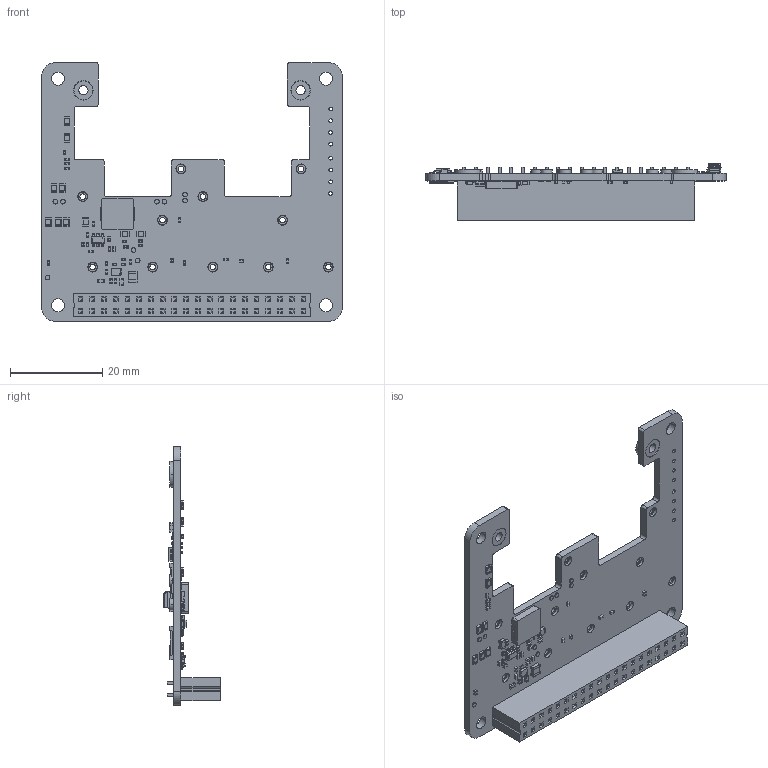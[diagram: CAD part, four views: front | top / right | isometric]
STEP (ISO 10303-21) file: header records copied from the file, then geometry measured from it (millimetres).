
FILE_DESCRIPTION((''),'2;1');
FILE_NAME('PWB-RAK6421_ASM','2026-07-09T09:43:34',('Zachary'),(''),'CREO PARAMETRIC BY PTC INC, 2021063','CREO PARAMETRIC BY PTC INC, 2021063','');
FILE_SCHEMA(('CONFIG_CONTROL_DESIGN','SHAPE_APPEARANCE_LAYERS_GROUPS'));
Products named in the file (94): PWB-RAK6421; ST-0485; SMTSO-M1_2-0_8-ET; AXE524127; AXE540127; SMTSO-M2_5-0_8-ET; SOT-23-6; U1_ASM; SC0603; C27_ASM; SC0402; C11_ASM; C28_ASM; SR0402; R22_ASM; R20_ASM; R18_ASM; R16_ASM; R14_ASM; R23_ASM; R17_ASM; R21_ASM; R47_ASM; R49_ASM; R48_ASM; C6_ASM; C5_ASM; C1_ASM; C3_ASM; C9_ASM; C25_ASM; C2_ASM; C19_ASM; C10_ASM; C23_ASM; C20_ASM; C17_ASM; C24_ASM; C4_ASM; C26_ASM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
Assembly tree (169 placements, depth 3):
  PWB-RAK6421_ASM
    PWB-RAK6421
    ST-0485
    SMTSO-M1_2-0_8-ET  x11
    AXE524127  x4
    AXE540127  x2
    SMTSO-M2_5-0_8-ET  x2
    U1_ASM
      SOT-23-6
    C27_ASM
      SC0603
    C11_ASM
      SC0402
    C28_ASM
      SC0402
    R22_ASM
      SR0402
    R20_ASM
      SR0402
    R18_ASM
      SR0402
    R16_ASM
      SR0402
    R14_ASM
      SR0402
    R23_ASM
      SR0402
    R17_ASM
      SR0402
    R21_ASM
      SR0402
    R47_ASM
      SR0402
    R49_ASM
      SR0402
    R48_ASM
      SR0402
    C6_ASM
      SC0402
    C5_ASM
      SC0402
    C1_ASM
      SC0402
    C3_ASM
      SC0402
    C9_ASM
      SC0402
    C25_ASM
      SC0402
    C2_ASM
      SC0402
    C19_ASM
      SC0402
    C10_ASM
      SC0402
    C23_ASM
      SC0402
    C20_ASM
      SC0402
    C17_ASM
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Bounding box: 65 x 12.2 x 56 mm (x, y, z)
Volume: 6204.7 mm3; surface area: 9072.2 mm2
Topology: 95 solids, 95 shells, 11606 faces, 29796 edges, 18649 vertices
Faces by surface type: plane 7089, cylinder 3439, bspline 652, torus 352, sphere 50, cone 24
Entity records: 166670 total; most frequent: CARTESIAN_POINT 27700, DIRECTION 21274, ORIENTED_EDGE 20664, PRESENTATION_STYLE_ASSIGNMENT 11252, STYLED_ITEM 10691, CURVE_STYLE 10668, EDGE_CURVE 10332, VECTOR 7876
